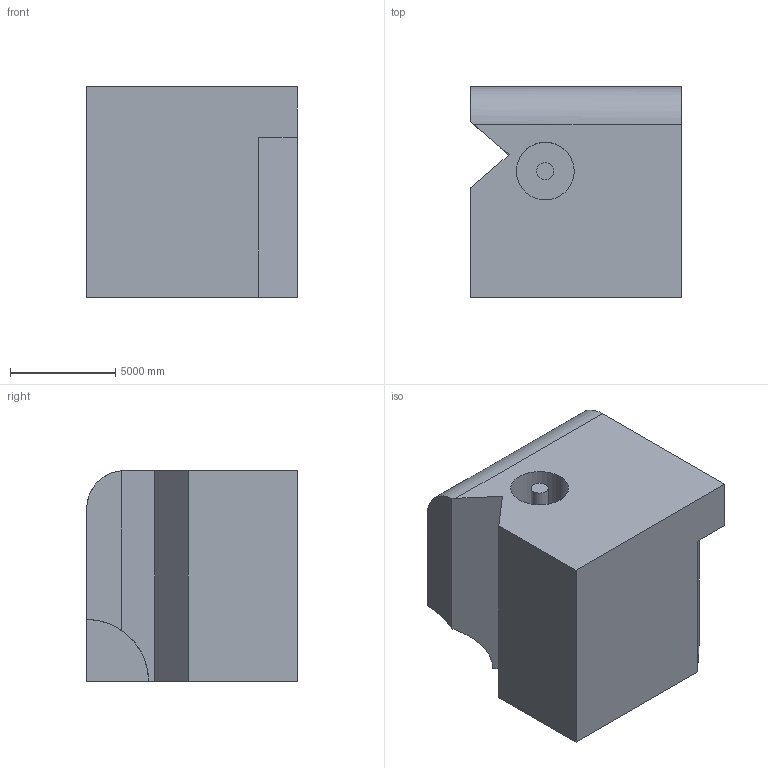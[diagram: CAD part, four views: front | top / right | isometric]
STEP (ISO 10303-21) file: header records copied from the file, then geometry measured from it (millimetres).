
FILE_DESCRIPTION (( 'STEP AP203' ), '1' );
FILE_NAME ('449.STEP', '2022-07-29T11:19:39', ( 'user' ), ( '' ), 'SwSTEP 2.0', 'SolidWorks 2021', '' );
FILE_SCHEMA (( 'CONFIG_CONTROL_DESIGN' ));
Length unit declared in the file: centimetre
Products named in the file (1): 449
Bounding box: 10000 x 10000 x 10000 mm (x, y, z)
Volume: 879428304354.8 mm3; surface area: 613994910 mm2
Topology: 1 solids, 1 shells, 20 faces, 48 edges, 32 vertices
Faces by surface type: plane 14, cylinder 6
Entity records: 661 total; most frequent: CARTESIAN_POINT 107, DIRECTION 100, ORIENTED_EDGE 96, EDGE_CURVE 48, VECTOR 34, LINE 34, AXIS2_PLACEMENT_3D 33, VERTEX_POINT 32
